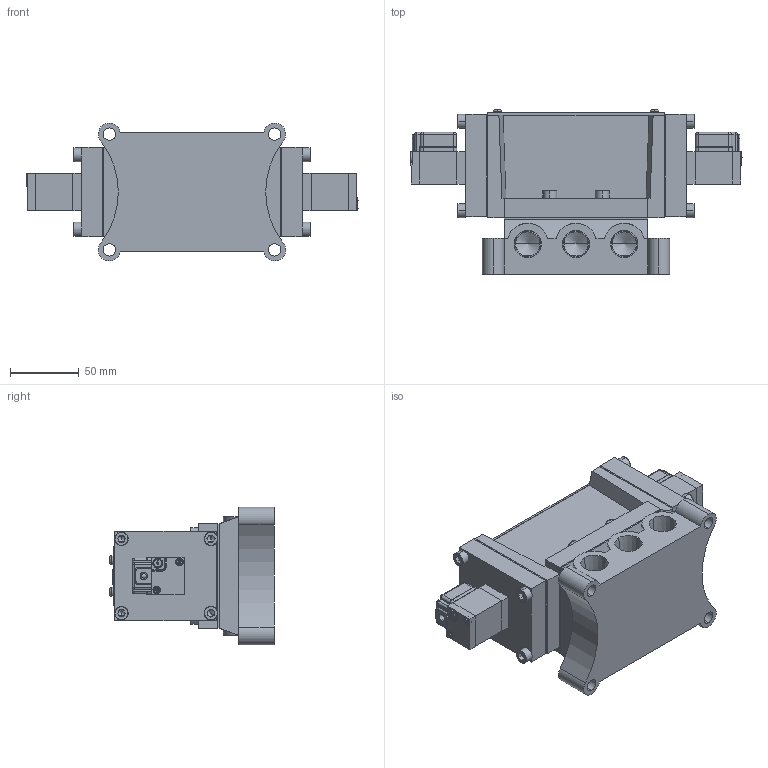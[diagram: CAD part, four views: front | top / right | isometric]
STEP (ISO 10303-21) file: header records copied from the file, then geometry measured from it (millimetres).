
FILE_DESCRIPTION (( 'STEP AP203' ), '1' );
FILE_NAME ('PMD2415#-04-#G#.STEP', '2016-03-09T06:29:06', ( 'Sam Lin' ), ( '' ), 'SwSTEP 2.0', 'SolidWorks 2013', '' );
FILE_SCHEMA (( 'CONFIG_CONTROL_DESIGN' ));
Length unit declared in the file: metre
Products named in the file (16): PM06-C6-M3_1; PM15-MARK-24; PM06-C5_1; PMS2415-5; PM06-G1; PM06-C3-M4_1; PMD2415#-04-#G#; ISO 4762 M6 x 12; PMS2415-7; PMS2415-1; PMS2415-6; PMS2415-2; PM06-C1_1; PMS2415-3; PM06-C4_1; PMS2415-4
Assembly tree (39 placements, depth 2):
  PMD2415#-04-#G#
    PMS2415-1
    PMS2415-2
    PMS2415-3  x2
    PMS2415-4  x2
    PM15-MARK-24
    PMS2415-5
    PM06-C3-M4_1  x4
    ISO 4762 M6 x 12  x12
    PMS2415-7  x2
    PMS2415-6
    PM06-C1_1  x2
    PM06-C4_1  x2
    PM06-C6-M3_1  x4
    PM06-C5_1  x2
    PM06-G1  x2
Bounding box: 241 x 119.55 x 99.99 mm (x, y, z)
Volume: 1090520.8 mm3; surface area: 208543.9 mm2
Topology: 45 solids, 45 shells, 1083 faces, 2542 edges, 1549 vertices
Faces by surface type: plane 572, cylinder 233, cone 142, bspline 128, torus 8
Entity records: 16639 total; most frequent: CARTESIAN_POINT 3811, DIRECTION 2209, ORIENTED_EDGE 2134, EDGE_CURVE 1067, AXIS2_PLACEMENT_3D 788, VERTEX_POINT 684, LINE 633, VECTOR 633
